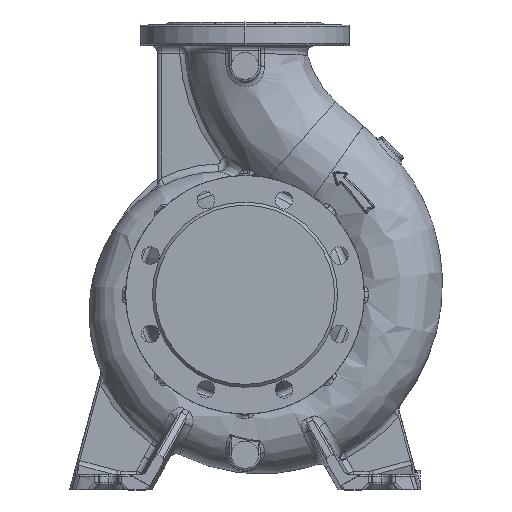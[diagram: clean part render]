
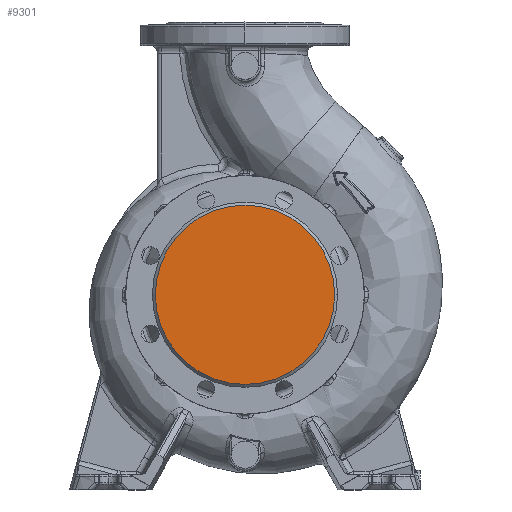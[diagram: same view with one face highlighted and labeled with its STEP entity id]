
A CAD part, top view. The second image highlights one B-rep face of the part: STEP entity #9301.
In plain terms, the highlighted planar face has unit normal (0, 0, 1).
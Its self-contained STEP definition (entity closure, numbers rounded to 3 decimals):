
#2987 = ORIENTED_EDGE ( 'NONE', *, *, #80796, .T. ) ;
#6382 = AXIS2_PLACEMENT_3D ( 'NONE', #53390, #46746, #67833 ) ;
#9301 = ADVANCED_FACE ( 'NONE', ( #51301 ), #25696, .T. ) ;
#14330 = EDGE_LOOP ( 'NONE', ( #2987, #50946 ) ) ;
#17349 = CIRCLE ( 'NONE', #6382, 92. ) ;
#18858 = CARTESIAN_POINT ( 'NONE',  ( 0., 0., 125. ) ) ;
#20589 = CARTESIAN_POINT ( 'NONE',  ( -92., 0., 125. ) ) ;
#25696 = PLANE ( 'NONE',  #50452 ) ;
#34363 = CARTESIAN_POINT ( 'NONE',  ( 92., 0., 125. ) ) ;
#45795 = EDGE_CURVE ( 'NONE', #86638, #56506, #17349, .T. ) ;
#46746 = DIRECTION ( 'NONE',  ( 0., 0., 1. ) ) ;
#50452 = AXIS2_PLACEMENT_3D ( 'NONE', #53351, #69064, #60606 ) ;
#50946 = ORIENTED_EDGE ( 'NONE', *, *, #45795, .T. ) ;
#51301 = FACE_OUTER_BOUND ( 'NONE', #14330, .T. ) ;
#51937 = CIRCLE ( 'NONE', #60088, 92. ) ;
#53351 = CARTESIAN_POINT ( 'NONE',  ( 0., 0., 125. ) ) ;
#53390 = CARTESIAN_POINT ( 'NONE',  ( 0., 0., 125. ) ) ;
#56506 = VERTEX_POINT ( 'NONE', #20589 ) ;
#60088 = AXIS2_PLACEMENT_3D ( 'NONE', #18858, #82685, #68546 ) ;
#60606 = DIRECTION ( 'NONE',  ( 1., 0., 0. ) ) ;
#67833 = DIRECTION ( 'NONE',  ( 1., 0., 0. ) ) ;
#68546 = DIRECTION ( 'NONE',  ( 1., 0., 0. ) ) ;
#69064 = DIRECTION ( 'NONE',  ( 0., 0., 1. ) ) ;
#80796 = EDGE_CURVE ( 'NONE', #56506, #86638, #51937, .T. ) ;
#82685 = DIRECTION ( 'NONE',  ( 0., 0., 1. ) ) ;
#86638 = VERTEX_POINT ( 'NONE', #34363 ) ;
